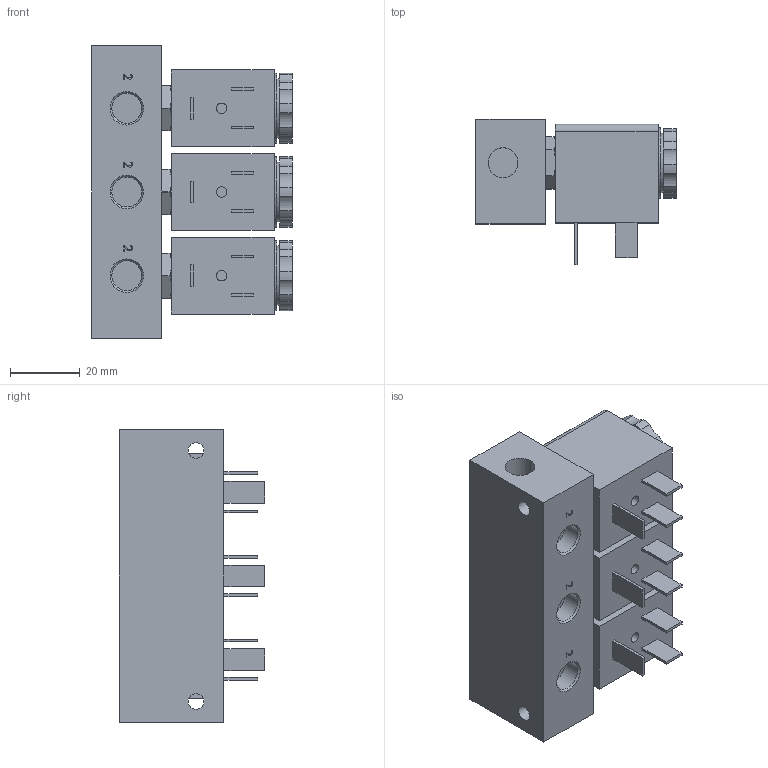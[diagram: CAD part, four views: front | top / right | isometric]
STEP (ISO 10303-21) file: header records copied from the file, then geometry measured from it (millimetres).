
FILE_DESCRIPTION (( 'STEP AP214' ), '1' );
FILE_NAME ('MS-18-310_3-HN-412_Airtec.step', '2018-12-14T07:35:53', ( '' ), ( '' ), 'SwSTEP 2.0', 'SolidWorks 2010', '' );
FILE_SCHEMA (( 'AUTOMOTIVE_DESIGN' ));
Length unit declared in the file: millimetre
Products named in the file (3): Volumenkörper4; Volumenkörper1; MS-18-310_3-HN-412_Airtec
Assembly tree (4 placements, depth 2):
  MS-18-310_3-HN-412_Airtec
    Volumenkörper4
    Volumenkörper1  x3
Bounding box: 57.45 x 41.7 x 84 mm (x, y, z)
Volume: 108199.4 mm3; surface area: 33687 mm2
Topology: 4 solids, 4 shells, 472 faces, 1133 edges, 742 vertices
Faces by surface type: plane 211, cylinder 138, bspline 78, cone 36, torus 9
Full cylindrical faces by diameter (mm): 3 x3, 4.134 x3, 4.5 x2, 6.647 x3, 7.4 x2, 8 x3, 8.15 x3, 8.2 x3, 8.566 x5, 9.04 x6, 10.5 x3, 13.2 x3, 16.6 x3, 17.041 x3, 20.1 x3
Entity records: 15672 total; most frequent: CARTESIAN_POINT 3754, ORIENTED_EDGE 1842, DIRECTION 1702, EDGE_CURVE 921, VERTEX_POINT 641, AXIS2_PLACEMENT_3D 640, EDGE_LOOP 554, FACE_OUTER_BOUND 473
